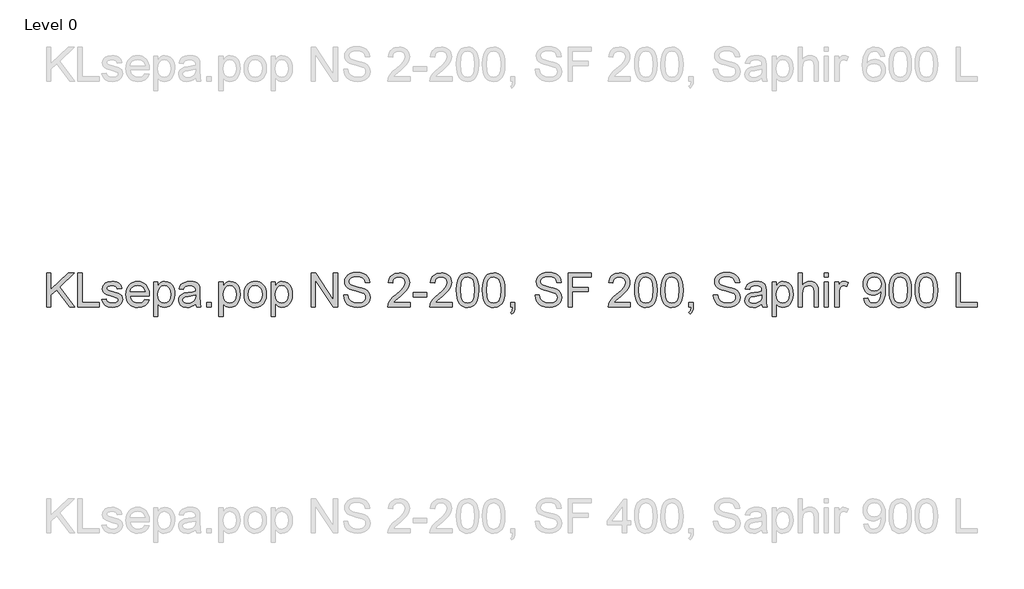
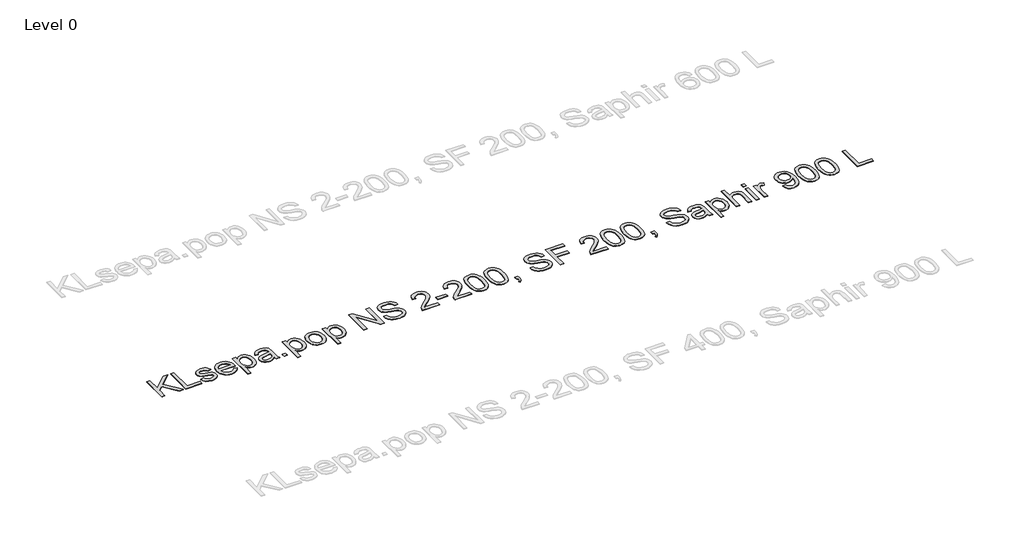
# One storey, part 12 of 15: 1 proxy.
"""IFC4 building model written with IfcOpenShell, lengths in millimetres."""

from ifc_helpers import new_model, si_unit, origin, origin_with_axes, place, context, project, spatial, polyline, outline, extrude, element, save

model = new_model("IFC4")

# Units and contexts
model_context = context("Model", 3, world=origin())
ifc_project = project(units=[si_unit("LENGTHUNIT", "METRE", prefix="MILLI")], contexts=[model_context])

# Site, building, storey
site = spatial("IfcSite", under=ifc_project)
building = spatial("IfcBuilding", under=site)
storey = spatial("IfcBuildingStorey", under=building, Name="Level 0", Elevation=0.0)

# Proxy
placement = place(None, origin())
element("IfcBuildingElementProxy", 1, Name="300mm Arial", ObjectType="300mm Arial", at=placement, inside=storey, context=model_context, shape_type="SweptSolid", body=[
    extrude(outline(polyline([(862.8420262, 6199.0232018), (862.8420262, 6500.3921323), (900.5131425, 6500.3921323), (900.5131425, 6352.8714522), (1055.0235805, 6500.3921323), (1107.7042822, 6500.3921323), (977.9890907, 6376.4894763), (1112.4131718, 6199.0232018), (1066.354346, 6199.0232018), (951.2808579, 6351.0320422), (900.5131425, 6302.6187717), (900.5131425, 6199.0232018), (862.8420262, 6199.0232018)])), origin_with_axes(), (0.0, 0.0, 1.0), 5.0),
    extrude(outline(polyline([(1140.666509, 6199.0232018), (1140.666509, 6500.3921323), (1178.3376253, 6500.3921323), (1178.3376253, 6236.6943181), (1329.0220905, 6236.6943181), (1329.0220905, 6199.0232018), (1140.666509, 6199.0232018)])), origin_with_axes(), (0.0, 0.0, 1.0), 5.0),
    extrude(outline(polyline([(1352.5665382, 6264.9476554), (1390.2376545, 6269.6565449), (1396.1789487, 6253.5433135), (1407.6752611, 6241.6975133), (1424.800168, 6234.4134498), (1447.6272458, 6231.9854286), (1470.1784121, 6234.2111147), (1486.0341261, 6240.8881729), (1495.4151169, 6250.5634693), (1498.5421139, 6261.7838702), (1495.3967228, 6271.3855903), (1485.9605497, 6278.706442), (1447.1857874, 6289.4485962), (1390.4583837, 6307.8794842), (1376.1017888, 6317.1409134), (1365.6999254, 6329.4005809), (1359.3815522, 6343.8767374), (1357.2754277, 6359.7876337), (1358.9676849, 6374.3833519), (1364.0444565, 6387.8570299), (1372.0458899, 6399.675239), (1382.5121326, 6409.3045503), (1406.4612505, 6420.4513747), (1438.8716543, 6425.0498997), (1463.3909893, 6423.2012926), (1484.7097509, 6417.6554716), (1501.8530519, 6408.9550624), (1513.8460049, 6397.642691), (1521.792256, 6382.881426), (1526.7954511, 6363.8343357), (1489.1243348, 6359.1254461), (1484.36946, 6370.9804434), (1474.960878, 6379.9107789), (1460.8066182, 6385.5117822), (1441.8147102, 6387.3787834), (1420.1832489, 6385.5945557), (1405.7622747, 6380.2418726), (1397.6504767, 6372.5163507), (1394.9465441, 6363.6136065), (1399.4347044, 6352.650723), (1413.4877966, 6344.3365899), (1445.9349886, 6336.3167624), (1501.2276525, 6318.5848503), (1515.8325677, 6310.1051703), (1526.9058157, 6298.4984933), (1533.8863766, 6283.7280312), (1536.2132302, 6265.7569957), (1533.4817064, 6247.178955), (1525.2871349, 6229.7045602), (1511.9422156, 6214.7041719), (1493.759648, 6203.5481504), (1471.7970928, 6196.6227718), (1447.112211, 6194.3143123), (1409.128395, 6198.7656844), (1381.4084866, 6212.1198009), (1362.9040223, 6234.2295088), (1352.5665382, 6264.9476554)])), origin_with_axes(), (0.0, 0.0, 1.0), 5.0),
    extrude(outline(polyline([(1733.5451324, 6264.9476554), (1770.4804847, 6260.2387658), (1757.1723536, 6232.4084929), (1735.9363654, 6211.6047661), (1707.2507668, 6198.6369257), (1671.5938044, 6194.3143123), (1648.2195022, 6196.1790141), (1627.3927827, 6201.7731197), (1609.1136461, 6211.0966291), (1593.3820923, 6224.1495421), (1580.7315501, 6240.5685754), (1571.6954486, 6259.9904455), (1566.2737877, 6282.4151523), (1564.4665674, 6307.842696), (1566.2921818, 6334.1324631), (1571.769025, 6357.3044302), (1580.897097, 6377.3585975), (1593.6763978, 6394.2949649), (1609.3665649, 6407.7502488), (1627.2272358, 6417.361166), (1647.2584104, 6423.1277162), (1669.4600889, 6425.0498997), (1690.9466966, 6423.1323148), (1710.3777638, 6417.3795601), (1727.7532903, 6407.7916356), (1743.0732761, 6394.3685413), (1755.5789647, 6377.4689621), (1764.5115994, 6357.451583), (1769.8711802, 6334.3164041), (1771.6577071, 6308.0634252), (1771.4369779, 6297.9098821), (1602.1376837, 6297.9098821), (1608.6583921, 6269.7117272), (1623.8059333, 6248.9815768), (1645.6673208, 6236.2344656), (1672.3295684, 6231.9854286), (1692.3791372, 6233.9535973), (1709.2649207, 6239.8581033), (1722.9869192, 6250.0668287), (1733.5451324, 6264.9476554)]), holes=[polyline([(1602.1376837, 6335.5809984), (1733.9865908, 6335.5809984), (1728.8914252, 6355.4834144), (1718.903429, 6369.7204476), (1696.9408739, 6382.9641994), (1669.3129361, 6387.3787834), (1643.9198813, 6383.8563132), (1622.9230165, 6373.2889029), (1608.3272983, 6356.8169866), (1602.1376837, 6335.5809984)])]), origin_with_axes(), (0.0, 0.0, 1.0), 5.0),
    extrude(outline(polyline([(1809.3288234, 6114.2631901), (1809.3288234, 6420.3410101), (1846.9999397, 6420.3410101), (1846.9999397, 6383.4056578), (1859.2871984, 6401.6250136), (1873.045985, 6414.6388392), (1889.08564, 6422.4471345), (1908.2155037, 6425.0498997), (1933.6913319, 6421.4078679), (1955.9665867, 6410.4817726), (1974.1031691, 6392.9338015), (1987.1629799, 6369.426142), (1995.0540487, 6341.6694455), (1997.6844049, 6311.3743631), (1994.7137578, 6279.1570974), (1985.8018165, 6250.3427401), (1971.2336895, 6226.3936223), (1951.2944854, 6208.7720747), (1928.0719344, 6197.9287529), (1903.653767, 6194.3143123), (1886.3357221, 6196.7331364), (1870.8754812, 6203.9896088), (1857.6409264, 6214.9432952), (1846.9999397, 6228.4537614), (1846.9999397, 6114.2631901), (1809.3288234, 6114.2631901)]), holes=[polyline([(1846.9999397, 6307.9162724), (1851.0742328, 6274.1447052), (1863.2971121, 6250.5266811), (1881.3325269, 6236.6207417), (1902.8444266, 6231.9854286), (1924.7058142, 6236.7862886), (1943.2010815, 6251.1888687), (1955.8102368, 6275.6714155), (1960.0132886, 6310.7121756), (1955.9114044, 6344.2998017), (1943.6057517, 6368.2489196), (1925.597928, 6382.5963174), (1904.389531, 6387.3787834), (1883.0983605, 6382.2928148), (1864.4007581, 6367.034909), (1851.3501443, 6342.0833127), (1846.9999397, 6307.9162724)])]), origin_with_axes(), (0.0, 0.0, 1.0), 5.0),
    extrude(outline(polyline([(2181.3310969, 6227.2765391), (2163.3324703, 6211.8438894), (2144.8004148, 6201.7455286), (2125.3118661, 6196.1721164), (2104.44376, 6194.3143123), (2072.9622582, 6198.7840785), (2049.7397073, 6212.1933772), (2035.4199006, 6232.5556457), (2030.6466317, 6257.8843211), (2032.4492535, 6273.5009117), (2037.8571188, 6287.6827627), (2046.1988431, 6299.8228685), (2056.8030416, 6309.314224), (2083.1801806, 6321.675059), (2115.7745254, 6327.3404417), (2154.2917703, 6333.3001301), (2181.1103677, 6340.289888), (2181.3310969, 6348.6775975), (2178.7375289, 6365.4898046), (2170.9568247, 6376.4894763), (2153.5560063, 6384.6564566), (2129.3125828, 6387.3787834), (2106.8717811, 6385.5669645), (2091.2000081, 6380.131508), (2080.5130362, 6370.0791325), (2073.0266376, 6354.4165566), (2035.3555213, 6359.1254461), (2041.8946237, 6379.7268379), (2051.6526936, 6395.9136456), (2065.540239, 6408.2928748), (2084.4677676, 6417.4715306), (2107.6167422, 6423.1553074), (2134.1686252, 6425.0498997), (2159.6352563, 6423.3760366), (2179.8227808, 6418.3544473), (2195.0438983, 6410.8036694), (2205.6113086, 6401.5422402), (2212.6194606, 6390.0919131), (2217.1628033, 6375.9744415), (2219.0022132, 6343.0122147), (2219.0022132, 6296.1440485), (2220.9151996, 6230.6978416), (2228.4199923, 6199.0232018), (2190.748876, 6199.0232018), (2181.3310969, 6227.2765391)]), holes=[polyline([(2181.3310969, 6302.6187717), (2120.5569913, 6291.067277), (2088.1465876, 6284.9604359), (2073.468096, 6275.027622), (2068.317748, 6260.5330714), (2071.1228482, 6249.3310647), (2079.5381489, 6240.1524089), (2093.3797089, 6234.0271737), (2112.4635874, 6231.9854286), (2132.6970972, 6234.2387058), (2150.5761621, 6240.9985375), (2165.0707128, 6250.9589425), (2175.1506794, 6262.8139398), (2179.6204457, 6275.027622), (2181.1103677, 6291.9501938), (2181.3310969, 6302.6187717)])]), origin_with_axes(), (0.0, 0.0, 1.0), 5.0),
    extrude(outline(polyline([(2280.2177772, 6199.0232018), (2280.2177772, 6236.6943181), (2317.8888936, 6236.6943181), (2317.8888936, 6199.0232018), (2280.2177772, 6199.0232018)])), origin_with_axes(), (0.0, 0.0, 1.0), 5.0),
    extrude(outline(polyline([(2388.5222366, 6114.2631901), (2388.5222366, 6420.3410101), (2426.1933529, 6420.3410101), (2426.1933529, 6383.4056578), (2438.4806116, 6401.6250136), (2452.2393982, 6414.6388392), (2468.2790532, 6422.4471345), (2487.4089169, 6425.0498997), (2512.8847451, 6421.4078679), (2535.1599999, 6410.4817726), (2553.2965823, 6392.9338015), (2566.3563931, 6369.426142), (2574.2474619, 6341.6694455), (2576.8778182, 6311.3743631), (2573.907171, 6279.1570974), (2564.9952297, 6250.3427401), (2550.4271027, 6226.3936223), (2530.4878986, 6208.7720747), (2507.2653476, 6197.9287529), (2482.8471802, 6194.3143123), (2465.5291353, 6196.7331364), (2450.0688944, 6203.9896088), (2436.8343396, 6214.9432952), (2426.1933529, 6228.4537614), (2426.1933529, 6114.2631901), (2388.5222366, 6114.2631901)]), holes=[polyline([(2426.1933529, 6307.9162724), (2430.267646, 6274.1447052), (2442.4905253, 6250.5266811), (2460.5259401, 6236.6207417), (2482.0378398, 6231.9854286), (2503.8992274, 6236.7862886), (2522.3944947, 6251.1888687), (2535.0036501, 6275.6714155), (2539.2067019, 6310.7121756), (2535.1048176, 6344.2998017), (2522.7991649, 6368.2489196), (2504.7913412, 6382.5963174), (2483.5829442, 6387.3787834), (2462.2917737, 6382.2928148), (2443.5941713, 6367.034909), (2430.5435575, 6342.0833127), (2426.1933529, 6307.9162724)])]), origin_with_axes(), (0.0, 0.0, 1.0), 5.0),
    extrude(outline(polyline([(2609.8400449, 6309.682106), (2611.8771915, 6338.3447119), (2617.9886311, 6363.0433894), (2628.1743639, 6383.7781383), (2642.4343897, 6400.5489588), (2656.7909846, 6411.2681204), (2672.6375015, 6418.9246644), (2689.9739405, 6423.5185909), (2708.8003016, 6425.0498997), (2729.5833351, 6423.1851978), (2748.3752073, 6417.5910922), (2765.1759181, 6408.2675829), (2779.9854677, 6395.2146698), (2792.0726905, 6378.8738115), (2800.7064211, 6359.6864662), (2805.8866594, 6337.6526339), (2807.6134055, 6312.7723147), (2804.559985, 6274.7149223), (2795.3997233, 6245.7442152), (2780.3993349, 6224.0483745), (2759.8255344, 6207.8155815), (2735.3889728, 6197.6896296), (2708.8003016, 6194.3143123), (2687.7137655, 6196.1721164), (2668.7471494, 6201.7455286), (2651.9004533, 6211.034549), (2637.1736772, 6224.0391775), (2625.2152131, 6240.538685), (2616.673453, 6260.3123422), (2611.5483969, 6283.3601492), (2609.8400449, 6309.682106)]), holes=[polyline([(2647.5111612, 6309.7556824), (2651.8705629, 6275.6622185), (2664.9487678, 6251.3728097), (2684.6304545, 6236.8322739), (2708.8003016, 6231.9854286), (2732.8597841, 6236.859865), (2752.5046827, 6251.4831743), (2765.5828876, 6276.0944798), (2769.9422892, 6310.9329048), (2765.5552964, 6344.0330873), (2752.3943181, 6367.9914022), (2732.7218284, 6382.5319381), (2708.8003016, 6387.3787834), (2684.6304545, 6382.5503322), (2664.9487678, 6368.0649786), (2651.8705629, 6343.8307522), (2647.5111612, 6309.7556824)])]), origin_with_axes(), (0.0, 0.0, 1.0), 5.0),
    extrude(outline(polyline([(2849.9934114, 6114.2631901), (2849.9934114, 6420.3410101), (2887.6645277, 6420.3410101), (2887.6645277, 6383.4056578), (2899.9517863, 6401.6250136), (2913.7105729, 6414.6388392), (2929.7502279, 6422.4471345), (2948.8800917, 6425.0498997), (2974.3559198, 6421.4078679), (2996.6311747, 6410.4817726), (3014.767757, 6392.9338015), (3027.8275678, 6369.426142), (3035.7186366, 6341.6694455), (3038.3489929, 6311.3743631), (3035.3783458, 6279.1570974), (3026.4664045, 6250.3427401), (3011.8982775, 6226.3936223), (2991.9590733, 6208.7720747), (2968.7365224, 6197.9287529), (2944.3183549, 6194.3143123), (2927.00031, 6196.7331364), (2911.5400692, 6203.9896088), (2898.3055144, 6214.9432952), (2887.6645277, 6228.4537614), (2887.6645277, 6114.2631901), (2849.9934114, 6114.2631901)]), holes=[polyline([(2887.6645277, 6307.9162724), (2891.7388208, 6274.1447052), (2903.9617001, 6250.5266811), (2921.9971149, 6236.6207417), (2943.5090145, 6231.9854286), (2965.3704021, 6236.7862886), (2983.8656694, 6251.1888687), (2996.4748248, 6275.6714155), (3000.6778766, 6310.7121756), (2996.5759924, 6344.2998017), (2984.2703396, 6368.2489196), (2966.262516, 6382.5963174), (2945.0541189, 6387.3787834), (2923.7629485, 6382.2928148), (2905.0653461, 6367.034909), (2892.0147323, 6342.0833127), (2887.6645277, 6307.9162724)])]), origin_with_axes(), (0.0, 0.0, 1.0), 5.0),
    extrude(outline(polyline([(3203.1601267, 6199.0232018), (3203.1601267, 6500.3921323), (3243.4799934, 6500.3921323), (3400.9334874, 6261.6367174), (3400.9334874, 6500.3921323), (3438.6046037, 6500.3921323), (3438.6046037, 6199.0232018), (3398.284737, 6199.0232018), (3240.8312431, 6437.8521931), (3240.8312431, 6199.0232018), (3203.1601267, 6199.0232018)])), origin_with_axes(), (0.0, 0.0, 1.0), 5.0),
    extrude(outline(polyline([(3490.4023886, 6302.6187717), (3528.0735049, 6302.6187717), (3532.3961183, 6281.7138773), (3540.2136107, 6264.9108672), (3552.4088989, 6251.5751448), (3569.8648995, 6241.0721139), (3591.2020553, 6234.2570999), (3615.0408085, 6231.9854286), (3636.0284764, 6233.7052769), (3654.404182, 6238.8648219), (3669.2942058, 6247.0318022), (3679.8248279, 6257.7739565), (3686.0880189, 6270.1072003), (3688.1757492, 6283.0474495), (3686.6122507, 6295.6566049), (3681.9217553, 6306.555109), (3672.3936116, 6315.8533264), (3656.3171684, 6323.6616218), (3601.4659629, 6338.0458078), (3565.4595126, 6347.5647544), (3542.4209027, 6356.6238486), (3523.668118, 6369.2973833), (3510.3783809, 6384.6564566), (3502.459721, 6402.3699747), (3499.8201677, 6422.1068437), (3503.0851204, 6444.1705664), (3512.8799785, 6464.7443669), (3528.9472246, 6482.1819735), (3551.0293414, 6494.8371141), (3577.5352391, 6502.5350449), (3606.8738283, 6505.1010218), (3638.6588326, 6502.4154832), (3666.4707115, 6494.3588675), (3689.3161834, 6481.0967216), (3706.2019669, 6462.7945924), (3716.8889389, 6440.592914), (3721.137976, 6415.6321206), (3683.4668596, 6415.6321206), (3676.5506781, 6438.1097105), (3662.1297039, 6454.3333065), (3639.5969317, 6464.1557557), (3608.3453562, 6467.4299055), (3576.3580168, 6464.1925439), (3554.4138557, 6454.4804593), (3541.7219269, 6440.1882438), (3537.491284, 6423.2104897), (3540.4895222, 6408.7343332), (3549.484237, 6397.090868), (3570.7478163, 6386.6798076), (3610.9941066, 6376.0480179), (3652.5279839, 6365.9496571), (3677.6543241, 6357.1388833), (3699.1294356, 6343.4720672), (3714.1114298, 6326.6046777), (3722.9130066, 6306.7206559), (3725.8468655, 6284.0039427), (3722.4715482, 6260.7813918), (3712.3455963, 6238.9383983), (3695.882877, 6220.1396283), (3673.4972576, 6206.0497479), (3646.5774926, 6197.2481712), (3616.5123365, 6194.3143123), (3579.6045754, 6197.4780974), (3549.2267196, 6206.9694529), (3525.0292814, 6222.8251669), (3506.6627728, 6245.0820276), (3494.8721548, 6272.1949307), (3490.4023886, 6302.6187717)])), origin_with_axes(), (0.0, 0.0, 1.0), 5.0),
    extrude(outline(polyline([(4079.0135809, 6236.6943181), (4079.0135809, 6199.0232018), (3881.2402203, 6199.0232018), (3885.2869222, 6224.9956707), (3894.5759426, 6245.2935598), (3908.1691823, 6264.9844436), (3927.8324749, 6285.5950323), (3955.3316541, 6308.6520364), (3995.9826146, 6344.7596542), (4020.3731908, 6371.4127048), (4032.568479, 6393.0441661), (4036.633575, 6414.0870162), (4032.7984052, 6432.9501655), (4021.2928958, 6448.6311355), (4003.6069689, 6459.1985459), (3981.2305465, 6462.721016), (3957.7320841, 6459.2813193), (3939.4759401, 6448.9622293), (3927.6945192, 6432.5730865), (3923.6202261, 6410.923231), (3885.9491098, 6415.6321206), (3895.0817803, 6452.0708322), (3903.6281389, 6466.6067695), (3914.8278464, 6478.6870946), (3928.4233854, 6488.1830486), (3944.1572385, 6494.9658728), (3982.0398869, 6500.3921323), (4002.2297107, 6498.8838161), (4020.1984469, 6494.3588675), (4035.9460955, 6486.8172866), (4049.4726566, 6476.2590734), (4060.3366718, 6463.465977), (4068.0966827, 6449.2197467), (4072.7526892, 6433.5203826), (4074.3046913, 6416.3678846), (4072.6308282, 6398.3508639), (4067.609239, 6380.6465428), (4058.6972977, 6362.6387192), (4045.3523783, 6343.7111905), (4024.0796019, 6321.114039), (3991.3840896, 6292.0973466), (3948.0475906, 6255.8609701), (3931.0514424, 6236.6943181), (4079.0135809, 6236.6943181)])), origin_with_axes(), (0.0, 0.0, 1.0), 5.0),
    extrude(outline(polyline([(4107.2669181, 6288.492103), (4107.2669181, 6326.1632194), (4224.9891565, 6326.1632194), (4224.9891565, 6288.492103), (4107.2669181, 6288.492103)])), origin_with_axes(), (0.0, 0.0, 1.0), 5.0),
    extrude(outline(polyline([(4451.0158544, 6236.6943181), (4451.0158544, 6199.0232018), (4253.2424938, 6199.0232018), (4257.2891957, 6224.9956707), (4266.5782161, 6245.2935598), (4280.1714558, 6264.9844436), (4299.8347485, 6285.5950323), (4327.3339276, 6308.6520364), (4367.9848881, 6344.7596542), (4392.3754644, 6371.4127048), (4404.5707525, 6393.0441661), (4408.6358485, 6414.0870162), (4404.8006787, 6432.9501655), (4393.2951693, 6448.6311355), (4375.6092424, 6459.1985459), (4353.2328201, 6462.721016), (4329.7343576, 6459.2813193), (4311.4782136, 6448.9622293), (4299.6967927, 6432.5730865), (4295.6224996, 6410.923231), (4257.9513833, 6415.6321206), (4267.0840538, 6452.0708322), (4275.6304124, 6466.6067695), (4286.8301199, 6478.6870946), (4300.4256589, 6488.1830486), (4316.159512, 6494.9658728), (4354.0421605, 6500.3921323), (4374.2319842, 6498.8838161), (4392.2007204, 6494.3588675), (4407.9483691, 6486.8172866), (4421.4749302, 6476.2590734), (4432.3389453, 6463.465977), (4440.0989562, 6449.2197467), (4444.7549627, 6433.5203826), (4446.3069648, 6416.3678846), (4444.6331018, 6398.3508639), (4439.6115125, 6380.6465428), (4430.6995712, 6362.6387192), (4417.3546518, 6343.7111905), (4396.0818755, 6321.114039), (4363.3863631, 6292.0973466), (4320.0498641, 6255.8609701), (4303.0537159, 6236.6943181), (4451.0158544, 6236.6943181)])), origin_with_axes(), (0.0, 0.0, 1.0), 5.0),
    extrude(outline(polyline([(4488.6869707, 6347.2796459), (4491.4552827, 6395.5181725), (4499.7602187, 6433.9894321), (4513.5190054, 6463.282036), (4532.6488691, 6483.9845953), (4557.2877657, 6496.290248), (4587.573651, 6500.3921323), (4610.7870049, 6497.9641111), (4631.5723376, 6490.6800476), (4648.9547619, 6478.8250503), (4661.9593904, 6462.6842278), (4671.7818397, 6442.3955357), (4679.6177262, 6418.0969299), (4684.74968, 6387.2408276), (4686.4603313, 6347.2796459), (4683.7196104, 6299.3170308), (4675.4974478, 6260.9377416), (4661.8214347, 6231.6175466), (4642.7191621, 6210.8322139), (4618.0250831, 6198.4437877), (4587.573651, 6194.3143123), (4566.8251065, 6196.107737), (4548.4310067, 6201.4880112), (4532.3913517, 6210.4551348), (4518.7061415, 6223.0091079), (4505.5727543, 6245.7028285), (4496.1917634, 6273.9791583), (4490.5631689, 6307.8380975), (4488.6869707, 6347.2796459)]), holes=[polyline([(4526.358087, 6347.3532223), (4530.7726709, 6288.0966299), (4536.2909009, 6267.8286312), (4544.0164228, 6253.8008309), (4563.7348977, 6237.4392792), (4587.573651, 6231.9854286), (4611.4124043, 6237.4576733), (4631.1308792, 6253.8744073), (4638.8564011, 6267.9252003), (4644.374631, 6288.1886004), (4648.789215, 6347.3532223), (4644.5217838, 6405.2762424), (4639.1874949, 6425.4775625), (4631.7194904, 6439.8387559), (4612.0378037, 6457.0004509), (4587.1321926, 6462.721016), (4563.5509567, 6457.6810326), (4544.605034, 6442.5610826), (4536.6219947, 6426.9260978), (4530.9198237, 6405.8464595), (4526.358087, 6347.3532223)])]), origin_with_axes(), (0.0, 0.0, 1.0), 5.0),
    extrude(outline(polyline([(4719.4225581, 6347.2796459), (4722.1908701, 6395.5181725), (4730.4958061, 6433.9894321), (4744.2545927, 6463.282036), (4763.3844565, 6483.9845953), (4788.0233531, 6496.290248), (4818.3092384, 6500.3921323), (4841.5225923, 6497.9641111), (4862.307925, 6490.6800476), (4879.6903493, 6478.8250503), (4892.6949778, 6462.6842278), (4902.5174271, 6442.3955357), (4910.3533136, 6418.0969299), (4915.4852674, 6387.2408276), (4917.1959187, 6347.2796459), (4914.4551978, 6299.3170308), (4906.2330352, 6260.9377416), (4892.557022, 6231.6175466), (4873.4547494, 6210.8322139), (4848.7606705, 6198.4437877), (4818.3092384, 6194.3143123), (4797.5606938, 6196.107737), (4779.1665941, 6201.4880112), (4763.1269391, 6210.4551348), (4749.4417289, 6223.0091079), (4736.3083416, 6245.7028285), (4726.9273508, 6273.9791583), (4721.2987562, 6307.8380975), (4719.4225581, 6347.2796459)]), holes=[polyline([(4757.0936744, 6347.3532223), (4761.5082583, 6288.0966299), (4767.0264882, 6267.8286312), (4774.7520101, 6253.8008309), (4794.4704851, 6237.4392792), (4818.3092384, 6231.9854286), (4842.1479917, 6237.4576733), (4861.8664666, 6253.8744073), (4869.5919885, 6267.9252003), (4875.1102184, 6288.1886004), (4879.5248024, 6347.3532223), (4875.2573712, 6405.2762424), (4869.9230823, 6425.4775625), (4862.4550778, 6439.8387559), (4842.773391, 6457.0004509), (4817.86778, 6462.721016), (4794.2865441, 6457.6810326), (4775.3406213, 6442.5610826), (4767.357582, 6426.9260978), (4761.6554111, 6405.8464595), (4757.0936744, 6347.3532223)])]), origin_with_axes(), (0.0, 0.0, 1.0), 5.0),
    extrude(outline(polyline([(4968.9937036, 6199.0232018), (4968.9937036, 6236.6943181), (5006.6648199, 6236.6943181), (5006.6648199, 6199.0232018), (5004.9725627, 6177.474514), (4999.8957912, 6160.5059569), (4991.1401997, 6147.4921313), (4978.4114827, 6137.8076378), (4968.9937036, 6151.9343064), (4977.1606839, 6158.7585174), (4982.8260666, 6168.1946906), (4987.7556853, 6199.0232018), (4968.9937036, 6199.0232018)])), origin_with_axes(), (0.0, 0.0, 1.0), 5.0),
    extrude(outline(polyline([(5185.6026224, 6302.6187717), (5223.2737387, 6302.6187717), (5227.5963521, 6281.7138773), (5235.4138445, 6264.9108672), (5247.6091326, 6251.5751448), (5265.0651333, 6241.0721139), (5286.402289, 6234.2570999), (5310.2410423, 6231.9854286), (5331.2287101, 6233.7052769), (5349.6044158, 6238.8648219), (5364.4944396, 6247.0318022), (5375.0250617, 6257.7739565), (5381.2882526, 6270.1072003), (5383.375983, 6283.0474495), (5381.8124845, 6295.6566049), (5377.121989, 6306.555109), (5367.5938454, 6315.8533264), (5351.5174022, 6323.6616218), (5296.6661967, 6338.0458078), (5260.6597464, 6347.5647544), (5237.6211365, 6356.6238486), (5218.8683518, 6369.2973833), (5205.5786147, 6384.6564566), (5197.6599547, 6402.3699747), (5195.0204014, 6422.1068437), (5198.2853541, 6444.1705664), (5208.0802123, 6464.7443669), (5224.1474584, 6482.1819735), (5246.2295752, 6494.8371141), (5272.7354729, 6502.5350449), (5302.074062, 6505.1010218), (5333.8590664, 6502.4154832), (5361.6709452, 6494.3588675), (5384.5164171, 6481.0967216), (5401.4022007, 6462.7945924), (5412.0891727, 6440.592914), (5416.3382097, 6415.6321206), (5378.6670934, 6415.6321206), (5371.7509119, 6438.1097105), (5357.3299377, 6454.3333065), (5334.7971655, 6464.1557557), (5303.54559, 6467.4299055), (5271.5582505, 6464.1925439), (5249.6140895, 6454.4804593), (5236.9221607, 6440.1882438), (5232.6915177, 6423.2104897), (5235.689756, 6408.7343332), (5244.6844708, 6397.090868), (5265.9480501, 6386.6798076), (5306.1943404, 6376.0480179), (5347.7282176, 6365.9496571), (5372.8545579, 6357.1388833), (5394.3296694, 6343.4720672), (5409.3116636, 6326.6046777), (5418.1132404, 6306.7206559), (5421.0470993, 6284.0039427), (5417.671782, 6260.7813918), (5407.54583, 6238.9383983), (5391.0831108, 6220.1396283), (5368.6974914, 6206.0497479), (5341.7777264, 6197.2481712), (5311.7125703, 6194.3143123), (5274.8048091, 6197.4780974), (5244.4269534, 6206.9694529), (5220.2295151, 6222.8251669), (5201.8630065, 6245.0820276), (5190.0723886, 6272.1949307), (5185.6026224, 6302.6187717)])), origin_with_axes(), (0.0, 0.0, 1.0), 5.0),
    extrude(outline(polyline([(5477.5537737, 6199.0232018), (5477.5537737, 6500.3921323), (5680.0360239, 6500.3921323), (5680.0360239, 6462.721016), (5515.22489, 6462.721016), (5515.22489, 6373.2521147), (5656.4915762, 6373.2521147), (5656.4915762, 6335.5809984), (5515.22489, 6335.5809984), (5515.22489, 6199.0232018), (5477.5537737, 6199.0232018)])), origin_with_axes(), (0.0, 0.0, 1.0), 5.0),
    extrude(outline(polyline([(6028.4938497, 6236.6943181), (6028.4938497, 6199.0232018), (5830.7204891, 6199.0232018), (5834.767191, 6224.9956707), (5844.0562114, 6245.2935598), (5857.6494511, 6264.9844436), (5877.3127438, 6285.5950323), (5904.8119229, 6308.6520364), (5945.4628834, 6344.7596542), (5969.8534597, 6371.4127048), (5982.0487478, 6393.0441661), (5986.1138439, 6414.0870162), (5982.2786741, 6432.9501655), (5970.7731647, 6448.6311355), (5953.0872377, 6459.1985459), (5930.7108154, 6462.721016), (5907.2123529, 6459.2813193), (5888.9562089, 6448.9622293), (5877.174788, 6432.5730865), (5873.1004949, 6410.923231), (5835.4293786, 6415.6321206), (5844.5620492, 6452.0708322), (5853.1084078, 6466.6067695), (5864.3081153, 6478.6870946), (5877.9036542, 6488.1830486), (5893.6375073, 6494.9658728), (5931.5201558, 6500.3921323), (5951.7099795, 6498.8838161), (5969.6787157, 6494.3588675), (5985.4263644, 6486.8172866), (5998.9529255, 6476.2590734), (6009.8169407, 6463.465977), (6017.5769515, 6449.2197467), (6022.232958, 6433.5203826), (6023.7849602, 6416.3678846), (6022.1110971, 6398.3508639), (6017.0895079, 6380.6465428), (6008.1775665, 6362.6387192), (5994.8326471, 6343.7111905), (5973.5598708, 6321.114039), (5940.8643585, 6292.0973466), (5897.5278594, 6255.8609701), (5880.5317112, 6236.6943181), (6028.4938497, 6236.6943181)])), origin_with_axes(), (0.0, 0.0, 1.0), 5.0),
    extrude(outline(polyline([(6066.164966, 6347.2796459), (6068.933278, 6395.5181725), (6077.2382141, 6433.9894321), (6090.9970007, 6463.282036), (6110.1268644, 6483.9845953), (6134.7657611, 6496.290248), (6165.0516463, 6500.3921323), (6188.2650002, 6497.9641111), (6209.0503329, 6490.6800476), (6226.4327572, 6478.8250503), (6239.4373857, 6462.6842278), (6249.259835, 6442.3955357), (6257.0957215, 6418.0969299), (6262.2276753, 6387.2408276), (6263.9383266, 6347.2796459), (6261.1976058, 6299.3170308), (6252.9754432, 6260.9377416), (6239.29943, 6231.6175466), (6220.1971574, 6210.8322139), (6195.5030785, 6198.4437877), (6165.0516463, 6194.3143123), (6144.3031018, 6196.107737), (6125.909002, 6201.4880112), (6109.869347, 6210.4551348), (6096.1841368, 6223.0091079), (6083.0507496, 6245.7028285), (6073.6697587, 6273.9791583), (6068.0411642, 6307.8380975), (6066.164966, 6347.2796459)]), holes=[polyline([(6103.8360823, 6347.3532223), (6108.2506663, 6288.0966299), (6113.7688962, 6267.8286312), (6121.4944181, 6253.8008309), (6141.212893, 6237.4392792), (6165.0516463, 6231.9854286), (6188.8903996, 6237.4576733), (6208.6088745, 6253.8744073), (6216.3343964, 6267.9252003), (6221.8526264, 6288.1886004), (6226.2672103, 6347.3532223), (6221.9997792, 6405.2762424), (6216.6654902, 6425.4775625), (6209.1974857, 6439.8387559), (6189.515799, 6457.0004509), (6164.6101879, 6462.721016), (6141.028952, 6457.6810326), (6122.0830293, 6442.5610826), (6114.09999, 6426.9260978), (6108.3978191, 6405.8464595), (6103.8360823, 6347.3532223)])]), origin_with_axes(), (0.0, 0.0, 1.0), 5.0),
    extrude(outline(polyline([(6296.9005534, 6347.2796459), (6299.6688654, 6395.5181725), (6307.9738014, 6433.9894321), (6321.7325881, 6463.282036), (6340.8624518, 6483.9845953), (6365.5013484, 6496.290248), (6395.7872337, 6500.3921323), (6419.0005876, 6497.9641111), (6439.7859203, 6490.6800476), (6457.1683446, 6478.8250503), (6470.1729731, 6462.6842278), (6479.9954224, 6442.3955357), (6487.8313089, 6418.0969299), (6492.9632627, 6387.2408276), (6494.673914, 6347.2796459), (6491.9331931, 6299.3170308), (6483.7110305, 6260.9377416), (6470.0350174, 6231.6175466), (6450.9327448, 6210.8322139), (6426.2386658, 6198.4437877), (6395.7872337, 6194.3143123), (6375.0386892, 6196.107737), (6356.6445894, 6201.4880112), (6340.6049344, 6210.4551348), (6326.9197242, 6223.0091079), (6313.786337, 6245.7028285), (6304.4053461, 6273.9791583), (6298.7767516, 6307.8380975), (6296.9005534, 6347.2796459)]), holes=[polyline([(6334.5716697, 6347.3532223), (6338.9862536, 6288.0966299), (6344.5044836, 6267.8286312), (6352.2300055, 6253.8008309), (6371.9484804, 6237.4392792), (6395.7872337, 6231.9854286), (6419.625987, 6237.4576733), (6439.3444619, 6253.8744073), (6447.0699838, 6267.9252003), (6452.5882137, 6288.1886004), (6457.0027977, 6347.3532223), (6452.7353665, 6405.2762424), (6447.4010776, 6425.4775625), (6439.9330731, 6439.8387559), (6420.2513864, 6457.0004509), (6395.3457753, 6462.721016), (6371.7645394, 6457.6810326), (6352.8186167, 6442.5610826), (6344.8355774, 6426.9260978), (6339.1334064, 6405.8464595), (6334.5716697, 6347.3532223)])]), origin_with_axes(), (0.0, 0.0, 1.0), 5.0),
    extrude(outline(polyline([(6546.4716989, 6199.0232018), (6546.4716989, 6236.6943181), (6584.1428152, 6236.6943181), (6584.1428152, 6199.0232018), (6582.450558, 6177.474514), (6577.3737865, 6160.5059569), (6568.618195, 6147.4921313), (6555.889478, 6137.8076378), (6546.4716989, 6151.9343064), (6554.6386792, 6158.7585174), (6560.3040619, 6168.1946906), (6565.2336807, 6199.0232018), (6546.4716989, 6199.0232018)])), origin_with_axes(), (0.0, 0.0, 1.0), 5.0),
    extrude(outline(polyline([(6763.0806177, 6302.6187717), (6800.751734, 6302.6187717), (6805.0743474, 6281.7138773), (6812.8918398, 6264.9108672), (6825.087128, 6251.5751448), (6842.5431286, 6241.0721139), (6863.8802844, 6234.2570999), (6887.7190376, 6231.9854286), (6908.7067055, 6233.7052769), (6927.0824111, 6238.8648219), (6941.9724349, 6247.0318022), (6952.503057, 6257.7739565), (6958.766248, 6270.1072003), (6960.8539783, 6283.0474495), (6959.2904798, 6295.6566049), (6954.5999844, 6306.555109), (6945.0718407, 6315.8533264), (6928.9953975, 6323.6616218), (6874.144192, 6338.0458078), (6838.1377417, 6347.5647544), (6815.0991318, 6356.6238486), (6796.3463471, 6369.2973833), (6783.05661, 6384.6564566), (6775.1379501, 6402.3699747), (6772.4983967, 6422.1068437), (6775.7633495, 6444.1705664), (6785.5582076, 6464.7443669), (6801.6254537, 6482.1819735), (6823.7075705, 6494.8371141), (6850.2134682, 6502.5350449), (6879.5520573, 6505.1010218), (6911.3370617, 6502.4154832), (6939.1489406, 6494.3588675), (6961.9944125, 6481.0967216), (6978.880196, 6462.7945924), (6989.567168, 6440.592914), (6993.816205, 6415.6321206), (6956.1450887, 6415.6321206), (6949.2289072, 6438.1097105), (6934.807933, 6454.3333065), (6912.2751608, 6464.1557557), (6881.0235853, 6467.4299055), (6849.0362458, 6464.1925439), (6827.0920848, 6454.4804593), (6814.400156, 6440.1882438), (6810.1695131, 6423.2104897), (6813.1677513, 6408.7343332), (6822.1624661, 6397.090868), (6843.4260454, 6386.6798076), (6883.6723357, 6376.0480179), (6925.2062129, 6365.9496571), (6950.3325532, 6357.1388833), (6971.8076647, 6343.4720672), (6986.7896589, 6326.6046777), (6995.5912357, 6306.7206559), (6998.5250946, 6284.0039427), (6995.1497773, 6260.7813918), (6985.0238254, 6238.9383983), (6968.5611061, 6220.1396283), (6946.1754867, 6206.0497479), (6919.2557217, 6197.2481712), (6889.1905656, 6194.3143123), (6852.2828045, 6197.4780974), (6821.9049487, 6206.9694529), (6797.7075105, 6222.8251669), (6779.3410019, 6245.0820276), (6767.5503839, 6272.1949307), (6763.0806177, 6302.6187717)])), origin_with_axes(), (0.0, 0.0, 1.0), 5.0),
    extrude(outline(polyline([(7191.5895657, 6227.2765391), (7173.590939, 6211.8438894), (7155.0588835, 6201.7455286), (7135.5703348, 6196.1721164), (7114.7022287, 6194.3143123), (7083.2207269, 6198.7840785), (7059.998176, 6212.1933772), (7045.6783693, 6232.5556457), (7040.9051004, 6257.8843211), (7042.7077222, 6273.5009117), (7048.1155875, 6287.6827627), (7056.4573118, 6299.8228685), (7067.0615103, 6309.314224), (7093.4386493, 6321.675059), (7126.0329941, 6327.3404417), (7164.550239, 6333.3001301), (7191.3688365, 6340.289888), (7191.5895657, 6348.6775975), (7188.9959976, 6365.4898046), (7181.2152934, 6376.4894763), (7163.814475, 6384.6564566), (7139.5710515, 6387.3787834), (7117.1302498, 6385.5669645), (7101.4584768, 6380.131508), (7090.7715049, 6370.0791325), (7083.2851063, 6354.4165566), (7045.61399, 6359.1254461), (7052.1530924, 6379.7268379), (7061.9111624, 6395.9136456), (7075.7987077, 6408.2928748), (7094.7262363, 6417.4715306), (7117.8752109, 6423.1553074), (7144.4270939, 6425.0498997), (7169.893725, 6423.3760366), (7190.0812495, 6418.3544473), (7205.302367, 6410.8036694), (7215.8697773, 6401.5422402), (7222.8779293, 6390.0919131), (7227.421272, 6375.9744415), (7229.260682, 6343.0122147), (7229.260682, 6296.1440485), (7231.1736683, 6230.6978416), (7238.678461, 6199.0232018), (7201.0073447, 6199.0232018), (7191.5895657, 6227.2765391)]), holes=[polyline([(7191.5895657, 6302.6187717), (7130.8154601, 6291.067277), (7098.4050563, 6284.9604359), (7083.7265647, 6275.027622), (7078.5762167, 6260.5330714), (7081.3813169, 6249.3310647), (7089.7966176, 6240.1524089), (7103.6381777, 6234.0271737), (7122.7220562, 6231.9854286), (7142.9555659, 6234.2387058), (7160.8346309, 6240.9985375), (7175.3291815, 6250.9589425), (7185.4091481, 6262.8139398), (7189.8789144, 6275.027622), (7191.3688365, 6291.9501938), (7191.5895657, 6302.6187717)])]), origin_with_axes(), (0.0, 0.0, 1.0), 5.0),
    extrude(outline(polyline([(7281.0584669, 6114.2631901), (7281.0584669, 6420.3410101), (7318.7295832, 6420.3410101), (7318.7295832, 6383.4056578), (7331.0168418, 6401.6250136), (7344.7756284, 6414.6388392), (7360.8152834, 6422.4471345), (7379.9451472, 6425.0498997), (7405.4209754, 6421.4078679), (7427.6962302, 6410.4817726), (7445.8328125, 6392.9338015), (7458.8926233, 6369.426142), (7466.7836921, 6341.6694455), (7469.4140484, 6311.3743631), (7466.4434013, 6279.1570974), (7457.53146, 6250.3427401), (7442.963333, 6226.3936223), (7423.0241288, 6208.7720747), (7399.8015779, 6197.9287529), (7375.3834104, 6194.3143123), (7358.0653655, 6196.7331364), (7342.6051247, 6203.9896088), (7329.3705699, 6214.9432952), (7318.7295832, 6228.4537614), (7318.7295832, 6114.2631901), (7281.0584669, 6114.2631901)]), holes=[polyline([(7318.7295832, 6307.9162724), (7322.8038763, 6274.1447052), (7335.0267556, 6250.5266811), (7353.0621704, 6236.6207417), (7374.5740701, 6231.9854286), (7396.4354576, 6236.7862886), (7414.9307249, 6251.1888687), (7427.5398803, 6275.6714155), (7431.7429321, 6310.7121756), (7427.6410479, 6344.2998017), (7415.3353951, 6368.2489196), (7397.3275715, 6382.5963174), (7376.1191744, 6387.3787834), (7354.828004, 6382.2928148), (7336.1304016, 6367.034909), (7323.0797878, 6342.0833127), (7318.7295832, 6307.9162724)])]), origin_with_axes(), (0.0, 0.0, 1.0), 5.0),
    extrude(outline(polyline([(7511.7940543, 6199.0232018), (7511.7940543, 6500.3921323), (7549.4651706, 6500.3921323), (7549.4651706, 6389.5860753), (7563.3021321, 6405.1014985), (7578.8405479, 6416.1839436), (7596.0804179, 6422.8334106), (7615.0217421, 6425.0498997), (7637.7752435, 6422.6310755), (7657.3281715, 6415.3746032), (7672.724033, 6403.8506997), (7683.0063348, 6388.6295821), (7688.8004762, 6367.7154907), (7690.7318567, 6339.1126656), (7690.7318567, 6199.0232018), (7653.0607404, 6199.0232018), (7653.0607404, 6335.2131164), (7650.0625021, 6358.7943523), (7641.0677874, 6374.9443719), (7626.5732368, 6384.2701805), (7607.075491, 6387.3787834), (7591.1553977, 6385.281856), (7576.2101916, 6378.9910739), (7563.8309625, 6369.1134423), (7555.6087999, 6356.2559666), (7551.0010779, 6339.1678479), (7549.4651706, 6316.5982875), (7549.4651706, 6199.0232018), (7511.7940543, 6199.0232018)])), origin_with_axes(), (0.0, 0.0, 1.0), 5.0),
    extrude(outline(polyline([(7742.5296416, 6462.721016), (7742.5296416, 6500.3921323), (7780.2007579, 6500.3921323), (7780.2007579, 6462.721016), (7742.5296416, 6462.721016)])), origin_with_axes(), (0.0, 0.0, 1.0), 5.0),
    extrude(outline(polyline([(7742.5296416, 6199.0232018), (7742.5296416, 6420.3410101), (7780.2007579, 6420.3410101), (7780.2007579, 6199.0232018), (7742.5296416, 6199.0232018)])), origin_with_axes(), (0.0, 0.0, 1.0), 5.0),
    extrude(outline(polyline([(7836.7074324, 6199.0232018), (7836.7074324, 6420.3410101), (7869.6696592, 6420.3410101), (7869.6696592, 6387.5995125), (7881.8465532, 6406.5822235), (7893.0669541, 6417.7658362), (7904.3241431, 6423.2288838), (7916.6114017, 6425.0498997), (7935.3733835, 6422.1436319), (7954.4296709, 6413.4248286), (7941.8481066, 6379.6532615), (7928.6043548, 6385.4474029), (7915.360603, 6387.3787834), (7904.112611, 6385.5209793), (7894.0602354, 6379.947567), (7885.9392404, 6371.081611), (7880.4853898, 6359.3461753), (7875.905259, 6338.3033252), (7874.3785487, 6315.3474887), (7874.3785487, 6199.0232018), (7836.7074324, 6199.0232018)])), origin_with_axes(), (0.0, 0.0, 1.0), 5.0),
    extrude(outline(polyline([(8090.9874675, 6274.3654344), (8128.6585838, 6279.074324), (8135.0965187, 6257.691183), (8145.5811555, 6243.132253), (8159.854977, 6234.7721347), (8177.6604655, 6231.9854286), (8193.6357412, 6233.7788533), (8208.1578829, 6239.1591275), (8220.2244124, 6247.5376399), (8228.8328511, 6258.3257794), (8241.1568979, 6291.067277), (8246.6015514, 6334.771658), (8246.3808222, 6342.1292979), (8233.3302084, 6326.2000076), (8216.2512868, 6313.5816551), (8196.376462, 6305.3594925), (8174.9381388, 6302.6187717), (8157.042979, 6304.2926347), (8140.5871575, 6309.314224), (8125.5706743, 6317.6835394), (8111.9935294, 6329.4005809), (8100.7432381, 6343.8537448), (8092.7073158, 6360.4314272), (8087.8857624, 6379.1336281), (8086.2785779, 6399.9603476), (8087.9639373, 6421.4814443), (8093.0200155, 6440.7952491), (8101.4468124, 6457.9017618), (8113.2443282, 6472.8009826), (8127.5802297, 6484.8721106), (8143.6221839, 6493.4943449), (8161.3701909, 6498.6676854), (8180.8242507, 6500.3921323), (8208.9212381, 6496.4557949), (8234.4982338, 6484.6467829), (8255.8905718, 6465.5537073), (8271.4335861, 6439.7651795), (8280.8973504, 6404.1174141), (8284.0519385, 6355.4466262), (8280.9065475, 6303.8419793), (8271.4703743, 6263.954374), (8255.8261925, 6233.9811884), (8234.0567754, 6212.1198009), (8207.1002222, 6198.7656844), (8175.8946319, 6194.3143123), (8143.6865633, 6199.5658278), (8117.9900059, 6215.3203742), (8100.0189704, 6240.5846702), (8090.9874675, 6274.3654344)]), holes=[polyline([(8246.3808222, 6400.8432644), (8242.3157262, 6426.3742748), (8230.120438, 6446.0191734), (8211.1929094, 6458.5455553), (8186.9310918, 6462.721016), (8161.7679633, 6458.2236586), (8141.60803, 6444.7315864), (8128.3642782, 6424.0842094), (8123.9496942, 6398.1209376), (8128.1251549, 6374.8432044), (8140.6515368, 6356.3663312), (8160.3148295, 6344.3089988), (8185.9010222, 6340.289888), (8209.9697018, 6344.3089988), (8229.3478858, 6356.3663312), (8242.1225881, 6375.5237861), (8246.3808222, 6400.8432644)])]), origin_with_axes(), (0.0, 0.0, 1.0), 5.0),
    extrude(outline(polyline([(8317.0141653, 6347.2796459), (8319.7824773, 6395.5181725), (8328.0874134, 6433.9894321), (8341.8462, 6463.282036), (8360.9760637, 6483.9845953), (8385.6149603, 6496.290248), (8415.9008456, 6500.3921323), (8439.1141995, 6497.9641111), (8459.8995322, 6490.6800476), (8477.2819565, 6478.8250503), (8490.286585, 6462.6842278), (8500.1090343, 6442.3955357), (8507.9449208, 6418.0969299), (8513.0768746, 6387.2408276), (8514.7875259, 6347.2796459), (8512.046805, 6299.3170308), (8503.8246424, 6260.9377416), (8490.1486293, 6231.6175466), (8471.0463567, 6210.8322139), (8446.3522778, 6198.4437877), (8415.9008456, 6194.3143123), (8395.1523011, 6196.107737), (8376.7582013, 6201.4880112), (8360.7185463, 6210.4551348), (8347.0333361, 6223.0091079), (8333.8999489, 6245.7028285), (8324.518958, 6273.9791583), (8318.8903635, 6307.8380975), (8317.0141653, 6347.2796459)]), holes=[polyline([(8354.6852816, 6347.3532223), (8359.0998655, 6288.0966299), (8364.6180955, 6267.8286312), (8372.3436174, 6253.8008309), (8392.0620923, 6237.4392792), (8415.9008456, 6231.9854286), (8439.7395989, 6237.4576733), (8459.4580738, 6253.8744073), (8467.1835957, 6267.9252003), (8472.7018257, 6288.1886004), (8477.1164096, 6347.3532223), (8472.8489785, 6405.2762424), (8467.5146895, 6425.4775625), (8460.046685, 6439.8387559), (8440.3649983, 6457.0004509), (8415.4593872, 6462.721016), (8391.8781513, 6457.6810326), (8372.9322286, 6442.5610826), (8364.9491893, 6426.9260978), (8359.2470183, 6405.8464595), (8354.6852816, 6347.3532223)])]), origin_with_axes(), (0.0, 0.0, 1.0), 5.0),
    extrude(outline(polyline([(8547.7497527, 6347.2796459), (8550.5180647, 6395.5181725), (8558.8230007, 6433.9894321), (8572.5817873, 6463.282036), (8591.7116511, 6483.9845953), (8616.3505477, 6496.290248), (8646.636433, 6500.3921323), (8669.8497869, 6497.9641111), (8690.6351196, 6490.6800476), (8708.0175439, 6478.8250503), (8721.0221724, 6462.6842278), (8730.8446217, 6442.3955357), (8738.6805082, 6418.0969299), (8743.812462, 6387.2408276), (8745.5231133, 6347.2796459), (8742.7823924, 6299.3170308), (8734.5602298, 6260.9377416), (8720.8842167, 6231.6175466), (8701.7819441, 6210.8322139), (8677.0878651, 6198.4437877), (8646.636433, 6194.3143123), (8625.8878884, 6196.107737), (8607.4937887, 6201.4880112), (8591.4541337, 6210.4551348), (8577.7689235, 6223.0091079), (8564.6355363, 6245.7028285), (8555.2545454, 6273.9791583), (8549.6259508, 6307.8380975), (8547.7497527, 6347.2796459)]), holes=[polyline([(8585.420869, 6347.3532223), (8589.8354529, 6288.0966299), (8595.3536828, 6267.8286312), (8603.0792047, 6253.8008309), (8622.7976797, 6237.4392792), (8646.636433, 6231.9854286), (8670.4751863, 6237.4576733), (8690.1936612, 6253.8744073), (8697.9191831, 6267.9252003), (8703.437413, 6288.1886004), (8707.851997, 6347.3532223), (8703.5845658, 6405.2762424), (8698.2502769, 6425.4775625), (8690.7822724, 6439.8387559), (8671.1005857, 6457.0004509), (8646.1949746, 6462.721016), (8622.6137387, 6457.6810326), (8603.6678159, 6442.5610826), (8595.6847766, 6426.9260978), (8589.9826057, 6405.8464595), (8585.420869, 6347.3532223)])]), origin_with_axes(), (0.0, 0.0, 1.0), 5.0),
    extrude(outline(polyline([(8910.3342471, 6199.0232018), (8910.3342471, 6500.3921323), (8948.0053634, 6500.3921323), (8948.0053634, 6236.6943181), (9098.6898287, 6236.6943181), (9098.6898287, 6199.0232018), (8910.3342471, 6199.0232018)])), origin_with_axes(), (0.0, 0.0, 1.0), 5.0),
])

save(model, "model.ifc")
